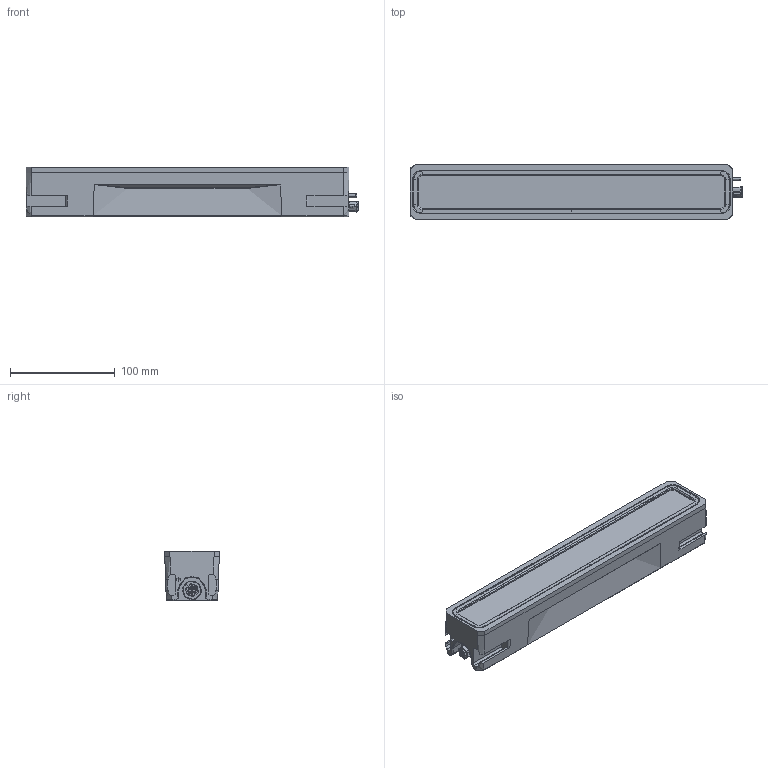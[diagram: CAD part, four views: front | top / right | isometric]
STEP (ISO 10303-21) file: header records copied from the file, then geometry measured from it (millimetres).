
FILE_DESCRIPTION (( 'STEP AP214' ), '1' );
FILE_NAME ('LZE 300.step', '2019-03-22T15:25:40', ( '' ), ( '' ), 'SwSTEP 2.0', 'SolidWorks 2019', '' );
FILE_SCHEMA (( 'AUTOMOTIVE_DESIGN' ));
Length unit declared in the file: millimetre
Products named in the file (53): Board_1; Terminal_2; Terminal_5; LZE LENS; C28; 93600A434_METRIC TYPE 316 STAINLESS STEEL DOWEL PIN_93600A434; RESC1608X06N.step_48; Open CASCADE STEP translator 6.8 2.1.1.1; LZE 300; Mark_2; Open CASCADE STEP translator 6.8 6.1.1; J5; RESC1608X06N.step_47; Board; LZE300 Housing_GASKET HOUSING; Open CASCADE STEP translator 6.8 6.1.2; 225256; SMALL BOARD_; Open CASCADE STEP translator 6.8 6.2.1; LZE Lens Holder Gasket_R3; Imported_9; Mid_Body_5; CAPC1608X09N.step_32; Heidi Lens; 92000A114_18-8 SS METRIC PAN HEAD PHIL MACHINE SCREW_92000A114; L2; C29; Open CASCADE STEP translator 6.8 2.1.1; RESC1608X06N.step_46; J1; LXE Threaded Female Connector; L4; LZE LED Board Assem; 92095A458_18-8 SS BUTTON-HEAD SOCKET CAP SCREW_92095A458; C27_1; 225457; Open CASCADE STEP translator 6.8 45.2.1; L3; CAPC1608X09N.step_31; LXE Male Connector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
Assembly tree (85 placements, depth 7):
  LZE 300
    LZE300 Housing_GASKET HOUSING
    LZE LED Board Assem
      PCB-LED
      Heidi Lens  x12
    LZE Lens Holder Gasket_R3
    93600A434_METRIC TYPE 316 STAINLESS STEEL DOWEL PIN_93600A434
    LZE LENS
    SMALL BOARD_
      Imported_9
        Board_1
        C27_1
          CAPC1608X09N.step_31
            Terminal_5
              Open CASCADE STEP translator 6.8 6.1.1
              Open CASCADE STEP translator 6.8 6.1.2
            Mid_Body_5
              Open CASCADE STEP translator 6.8 6.2.1
        C28
          CAPC1608X09N.step_32
            Terminal_5
              Open CASCADE STEP translator 6.8 6.1.1
              Open CASCADE STEP translator 6.8 6.1.2
            Mid_Body_5
              Open CASCADE STEP translator 6.8 6.2.1
        C29
          CAPC1608X09N.step_33
            Terminal_5
              Open CASCADE STEP translator 6.8 6.1.1
              Open CASCADE STEP translator 6.8 6.1.2
            Mid_Body_5
              Open CASCADE STEP translator 6.8 6.2.1
        L2
          RESC1608X06N.step_46
            Mid_Body_2
            Terminal_2
              Open CASCADE STEP translator 6.8 45.2.1
            Terminal_2
              Open CASCADE STEP translator 6.8 45.2.1
            Mark_2
        L3
          RESC1608X06N.step_47
            Mid_Body_2
            Terminal_2
              Open CASCADE STEP translator 6.8 45.2.1
            Terminal_2
              Open CASCADE STEP translator 6.8 45.2.1
            Mark_2
        L4
          RESC1608X06N.step_48
            Mid_Body_2
            Terminal_2
              Open CASCADE STEP translator 6.8 45.2.1
            Terminal_2
              Open CASCADE STEP translator 6.8 45.2.1
            Mark_2
        J1
          225457
    LXE Male Connector
    LXE Threaded Female Connector
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Bounding box: 316.8 x 52.35 x 47.2 mm (x, y, z)
Topology: 65 solids, 89 shells, 8298 faces, 22281 edges, 14120 vertices
Faces by surface type: plane 4041, cylinder 2055, bspline 1407, cone 584, torus 169, sphere 42
Entity records: 126827 total; most frequent: CARTESIAN_POINT 44448, ORIENTED_EDGE 15642, DIRECTION 13343, EDGE_CURVE 7821, VERTEX_POINT 4897, AXIS2_PLACEMENT_3D 4649, VECTOR 4045, LINE 4045
